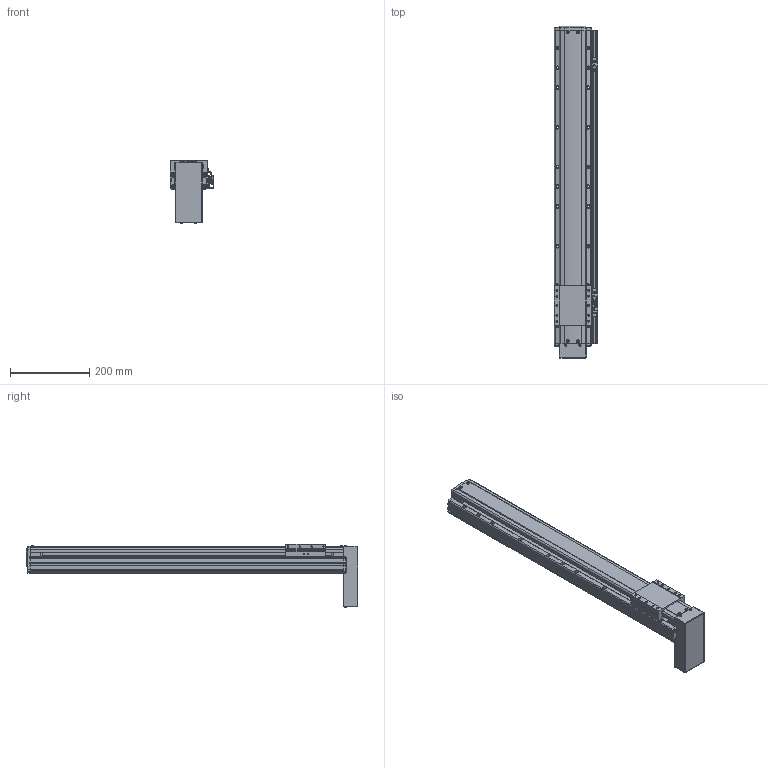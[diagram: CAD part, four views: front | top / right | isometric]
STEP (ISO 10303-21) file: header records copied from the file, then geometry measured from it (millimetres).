
FILE_DESCRIPTION(('STEP AP214'),'1');
FILE_NAME('Z:/Web/3D/PSA95/STP/PSA95-600 (3D)/PSA95ㅁㅁ-600PB+3SR.stp','2014-07-03T00:45:55',(' '),(' '),'Spatial InterOp 3D',' ',' ');
FILE_SCHEMA(('automotive_design'));
Length unit declared in the file: millimetre
Products named in the file (47): BASE; RRCV; 스크루 : Round - M4.0 x 10.0; 너트 : Square - M10.0 x 220.7419; RR1500; FRCV-090; 스크루 : Round - M4.0 x 6.0; SLBL-PA90; MTPL COVER; 스크루 : Round - M3.0 x 6.0; 1; 2; EE-SX674; SBK-SX674-352; M3.0 x 6.0; SRL-16x17-380L; SGD-PA95; 스크루 : Round - M3.0 x 8.0
Bounding box: 111 x 837.5 x 159.57 mm (x, y, z)
Volume: 4782817.6 mm3; surface area: 578811.1 mm2
Topology: 47 solids, 47 shells, 2550 faces, 6761 edges, 4339 vertices
Faces by surface type: plane 1487, cylinder 717, cone 238, sphere 70, bspline 24, torus 14
Entity records: 102010 total; most frequent: CARTESIAN_POINT 16756, DIRECTION 13544, ORIENTED_EDGE 13250, EDGE_CURVE 6625, AXIS2_PLACEMENT_3D 4521, LINE 4502, VECTOR 4502, VERTEX_POINT 4339
